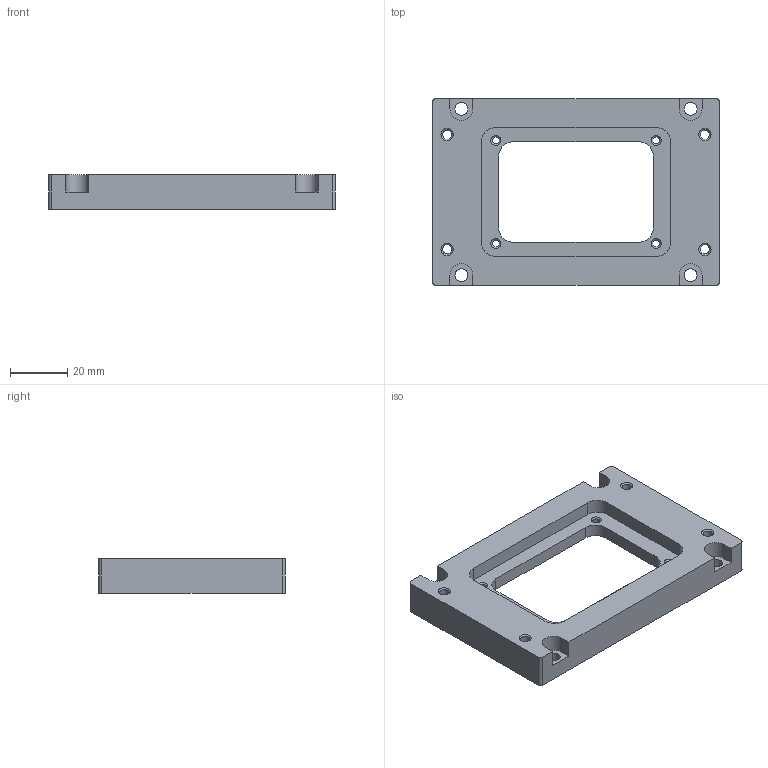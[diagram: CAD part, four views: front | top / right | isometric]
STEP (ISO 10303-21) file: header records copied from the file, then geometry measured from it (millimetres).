
FILE_DESCRIPTION(('STEP AP203'), '1');
FILE_NAME('ÒÏÏÔ1801.01.07.02.007 - Êîðïóñ ôèëüòðà', '', ('UNSPECIFIED'), ('UNSPECIFIED'), 'C3D Converter', 'C3D Toolkit', '');
FILE_SCHEMA(('CONFIG_CONTROL_DESIGN'));
Length unit declared in the file: millimetre
Products named in the file (1): ТППФ1801.01.07.02.007
Bounding box: 100 x 65 x 12 mm (x, y, z)
Volume: 43678.6 mm3; surface area: 17661.6 mm2
Topology: 1 solids, 1 shells, 110 faces, 284 edges, 180 vertices
Faces by surface type: cylinder 48, plane 42, cone 12, torus 8
Full cylindrical faces by diameter (mm): 2.459 x4, 3.242 x4, 4.5 x4
Entity records: 4212 total; most frequent: DIRECTION 598, CARTESIAN_POINT 551, ORIENTED_EDGE 520, EDGE_CURVE 260, AXIS2_PLACEMENT_3D 227, VERTEX_POINT 180, EDGE_LOOP 164, LINE 144
